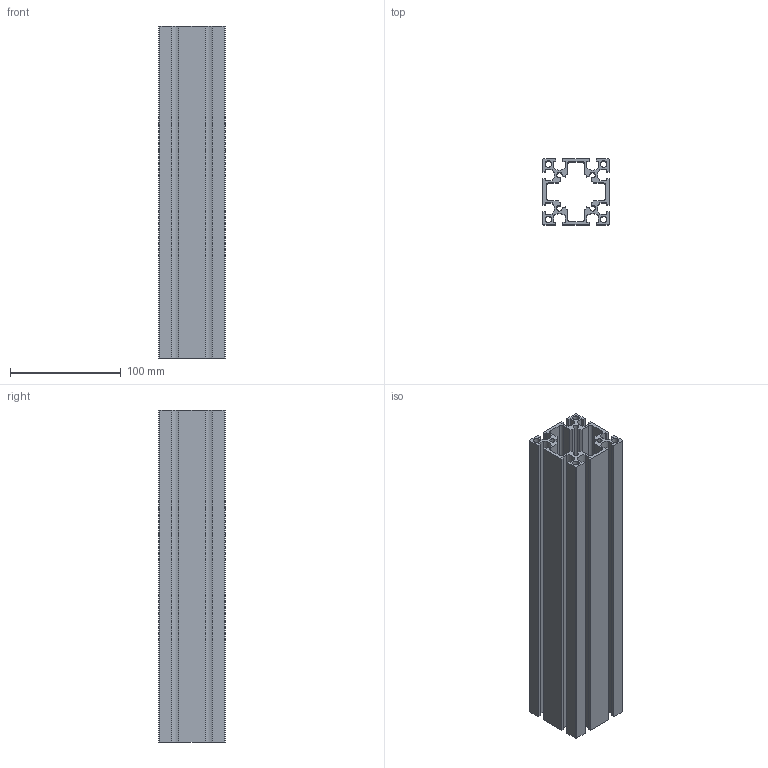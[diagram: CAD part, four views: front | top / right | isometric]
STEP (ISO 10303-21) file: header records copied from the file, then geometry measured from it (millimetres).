
FILE_DESCRIPTION (( 'STEP AP203' ), '1' );
FILE_NAME ('37-CG-6060-6.STEP', '2015-07-07T03:47:03', ( '' ), ( '' ), 'SwSTEP 2.0', 'SolidWorks 2013', '' );
FILE_SCHEMA (( 'CONFIG_CONTROL_DESIGN' ));
Length unit declared in the file: millimetre
Products named in the file (1): 37-CG-6060-6
Bounding box: 60 x 60 x 300 mm (x, y, z)
Volume: 311912.4 mm3; surface area: 231458.4 mm2
Topology: 1 solids, 1 shells, 148 faces, 438 edges, 292 vertices
Faces by surface type: plane 90, cylinder 58
Entity records: 5055 total; most frequent: CARTESIAN_POINT 879, ORIENTED_EDGE 876, DIRECTION 852, EDGE_CURVE 438, VECTOR 322, LINE 322, VERTEX_POINT 292, AXIS2_PLACEMENT_3D 265
